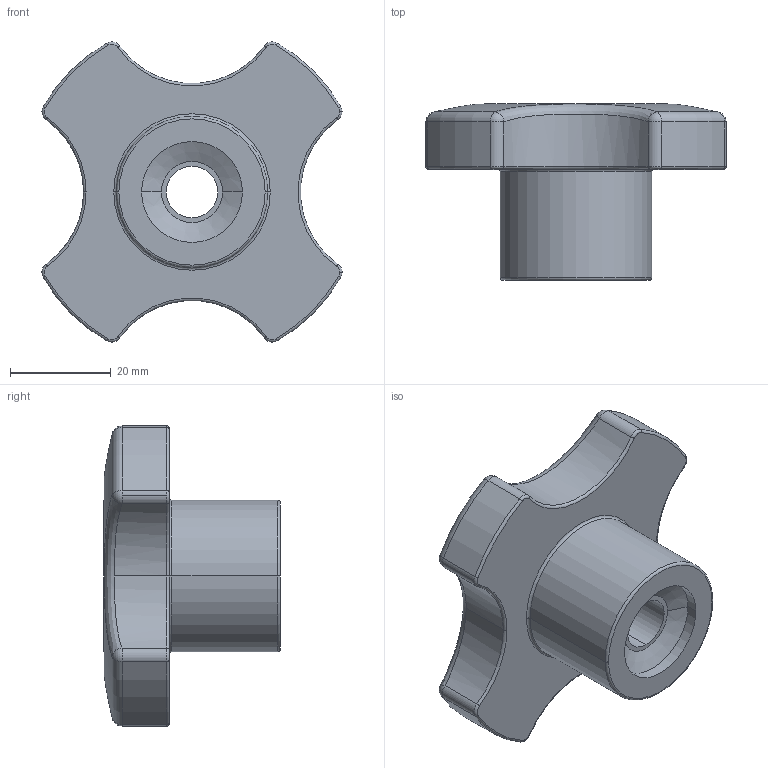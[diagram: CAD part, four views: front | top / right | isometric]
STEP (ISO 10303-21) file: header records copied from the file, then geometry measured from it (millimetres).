
FILE_DESCRIPTION (( 'STEP AP203' ), '1' );
FILE_NAME ('13.20004.STEP', '2012-12-19T16:43:40', ( 'Ricardo' ), ( '' ), 'SwSTEP 2.0', 'SolidWorks 2012', '' );
FILE_SCHEMA (( 'CONFIG_CONTROL_DESIGN' ));
Length unit declared in the file: millimetre
Products named in the file (1): 13.20004
Bounding box: 59.51 x 35 x 59.5 mm (x, y, z)
Volume: 42886.7 mm3; surface area: 10819 mm2
Topology: 1 solids, 1 shells, 77 faces, 166 edges, 94 vertices
Faces by surface type: torus 29, cylinder 27, sphere 8, plane 5, cone 4, bspline 4
Entity records: 2826 total; most frequent: CARTESIAN_POINT 1017, DIRECTION 427, ORIENTED_EDGE 332, AXIS2_PLACEMENT_3D 198, EDGE_CURVE 166, CIRCLE 124, VERTEX_POINT 94, EDGE_LOOP 82
